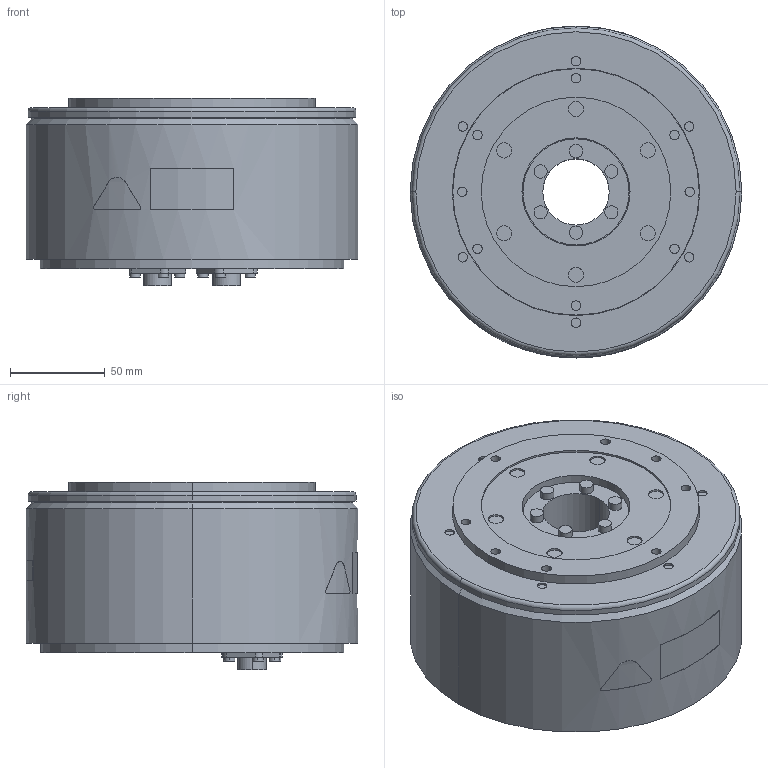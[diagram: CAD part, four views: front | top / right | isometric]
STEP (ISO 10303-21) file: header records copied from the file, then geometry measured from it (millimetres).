
FILE_DESCRIPTION (( 'STEP AP203' ), '1' );
FILE_NAME ('sgm7e_10c_a1_.STEP', '2016-03-23T07:23:48', ( '' ), ( '' ), 'SwSTEP 2.0', 'SolidWorks 2010', '' );
FILE_SCHEMA (( 'CONFIG_CONTROL_DESIGN' ));
Length unit declared in the file: millimetre
Products named in the file (1): sgm7e_10c_a1_
Bounding box: 175 x 175.1 x 99.1 mm (x, y, z)
Volume: 1985238.4 mm3; surface area: 111727.4 mm2
Topology: 1 solids, 1 shells, 294 faces, 646 edges, 428 vertices
Faces by surface type: cylinder 161, plane 122, bspline 5, cone 4, torus 2
Entity records: 8800 total; most frequent: CARTESIAN_POINT 1913, DIRECTION 1554, ORIENTED_EDGE 1292, EDGE_CURVE 646, AXIS2_PLACEMENT_3D 634, VERTEX_POINT 428, EDGE_LOOP 370, CIRCLE 344
